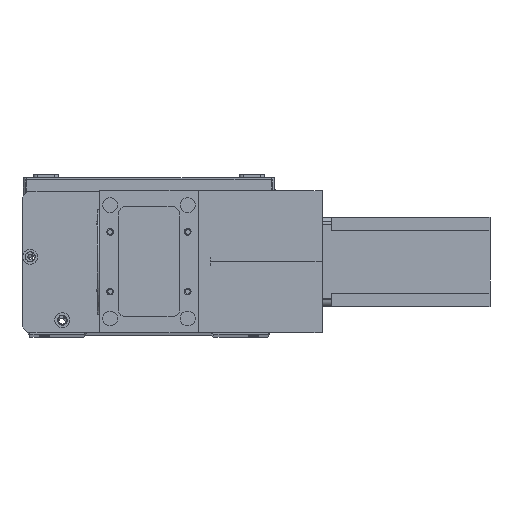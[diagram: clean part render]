
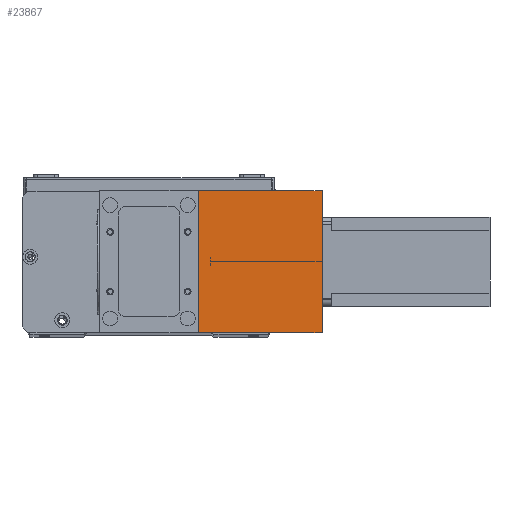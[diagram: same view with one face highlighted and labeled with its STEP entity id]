
A CAD part, top view. The second image highlights one B-rep face of the part: STEP entity #23867.
In plain terms, the highlighted planar face has unit normal (0, 0, 1) as drawn and (1, 0, 0) by its records, which use the part's own axes.
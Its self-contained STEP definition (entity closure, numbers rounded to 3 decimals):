
#3723 = LINE ( 'NONE', #15869, #8871 ) ;
#5080 = DIRECTION ( 'NONE',  ( -1., 0., 0. ) ) ;
#5437 = VECTOR ( 'NONE', #19743, 1000. ) ;
#7178 = CARTESIAN_POINT ( 'NONE',  ( 82., 0., 83. ) ) ;
#7903 = VECTOR ( 'NONE', #26348, 1000. ) ;
#8871 = VECTOR ( 'NONE', #11543, 1000. ) ;
#10343 = ORIENTED_EDGE ( 'NONE', *, *, #28132, .F. ) ;
#11543 = DIRECTION ( 'NONE',  ( 0., 1., 0. ) ) ;
#11843 = EDGE_CURVE ( 'NONE', #20437, #16846, #25380, .T. ) ;
#11848 = ORIENTED_EDGE ( 'NONE', *, *, #11843, .T. ) ;
#13949 = LINE ( 'NONE', #16920, #19147 ) ;
#15869 = CARTESIAN_POINT ( 'NONE',  ( 82., 0., 83. ) ) ;
#16396 = LINE ( 'NONE', #28143, #5437 ) ;
#16444 = CARTESIAN_POINT ( 'NONE',  ( 82., 0., 0. ) ) ;
#16846 = VERTEX_POINT ( 'NONE', #16444 ) ;
#16920 = CARTESIAN_POINT ( 'NONE',  ( 82., 95., 83. ) ) ;
#17106 = ORIENTED_EDGE ( 'NONE', *, *, #28248, .T. ) ;
#17306 = FACE_OUTER_BOUND ( 'NONE', #21659, .T. ) ;
#17834 = ORIENTED_EDGE ( 'NONE', *, *, #27614, .F. ) ;
#19049 = VERTEX_POINT ( 'NONE', #26856 ) ;
#19101 = DIRECTION ( 'NONE',  ( 0., 0., -1. ) ) ;
#19147 = VECTOR ( 'NONE', #19101, 1000. ) ;
#19743 = DIRECTION ( 'NONE',  ( 0., 1., 0. ) ) ;
#20029 = VERTEX_POINT ( 'NONE', #28347 ) ;
#20334 = PLANE ( 'NONE',  #25572 ) ;
#20429 = DIRECTION ( 'NONE',  ( 0., 0., 1. ) ) ;
#20437 = VERTEX_POINT ( 'NONE', #23425 ) ;
#21659 = EDGE_LOOP ( 'NONE', ( #17106, #10343, #17834, #11848 ) ) ;
#23425 = CARTESIAN_POINT ( 'NONE',  ( 82., 0., 83. ) ) ;
#23867 = ADVANCED_FACE ( 'NONE', ( #17306 ), #20334, .F. ) ;
#25380 = LINE ( 'NONE', #26554, #7903 ) ;
#25572 = AXIS2_PLACEMENT_3D ( 'NONE', #7178, #5080, #20429 ) ;
#26348 = DIRECTION ( 'NONE',  ( 0., 0., -1. ) ) ;
#26554 = CARTESIAN_POINT ( 'NONE',  ( 82., 0., 83. ) ) ;
#26856 = CARTESIAN_POINT ( 'NONE',  ( 82., 95., 0. ) ) ;
#27614 = EDGE_CURVE ( 'NONE', #20437, #20029, #3723, .T. ) ;
#28132 = EDGE_CURVE ( 'NONE', #20029, #19049, #13949, .T. ) ;
#28143 = CARTESIAN_POINT ( 'NONE',  ( 82., 0., 0. ) ) ;
#28248 = EDGE_CURVE ( 'NONE', #16846, #19049, #16396, .T. ) ;
#28347 = CARTESIAN_POINT ( 'NONE',  ( 82., 95., 83. ) ) ;
